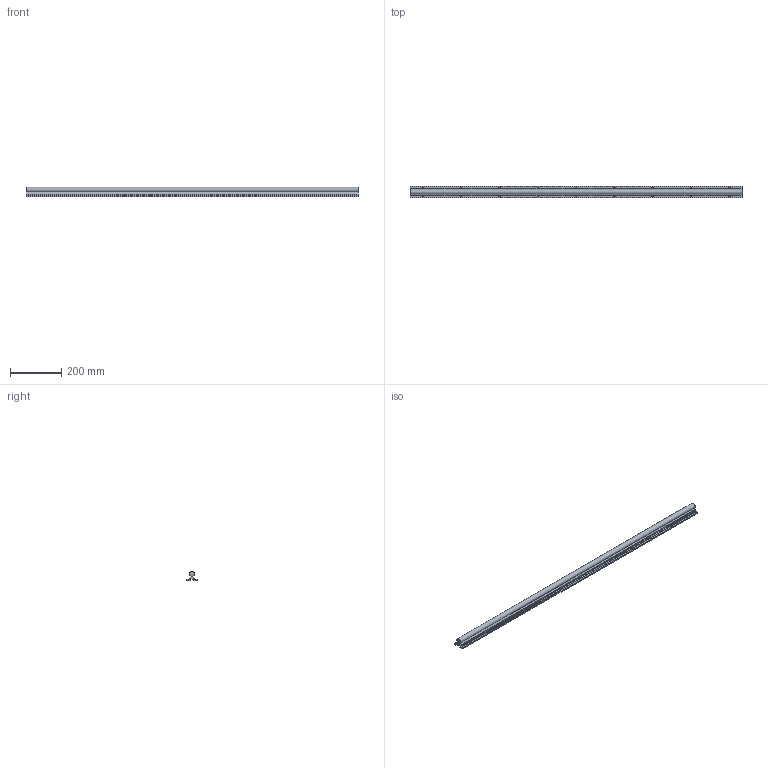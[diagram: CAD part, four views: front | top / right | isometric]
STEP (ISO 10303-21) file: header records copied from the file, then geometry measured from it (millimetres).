
FILE_DESCRIPTION(/* description */ (''),/* implementation_level */ '2;1');
FILE_NAME(/* name */ 'C:\Users\David\Desktop\stepFiles\Profilfuehrung\LFS20x1300.stp',/* time_stamp */ '2018-06-24T15:21:59+02:00',/* author */ ('Buskamp'),/* organization */ (''),/* preprocessor_version */ 'ST-DEVELOPER v17',/* originating_system */ 'Autodesk Inventor 2019',/* authorisation */ '');
FILE_SCHEMA (('AUTOMOTIVE_DESIGN { 1 0 10303 214 3 1 1 }'));
Length unit declared in the file: millimetre
Products named in the file (1): Linearführung D20xvariabel
Bounding box: 1300 x 45 x 37 mm (x, y, z)
Volume: 839864.8 mm3; surface area: 230848 mm2
Topology: 1 solids, 1 shells, 114 faces, 376 edges, 246 vertices
Faces by surface type: plane 79, cylinder 19, cone 16
Full cylindrical faces by diameter (mm): 5.5 x18
Entity records: 4231 total; most frequent: CARTESIAN_POINT 801, ORIENTED_EDGE 752, DIRECTION 718, EDGE_CURVE 376, AXIS2_PLACEMENT_3D 259, VERTEX_POINT 246, LINE 200, VECTOR 200
